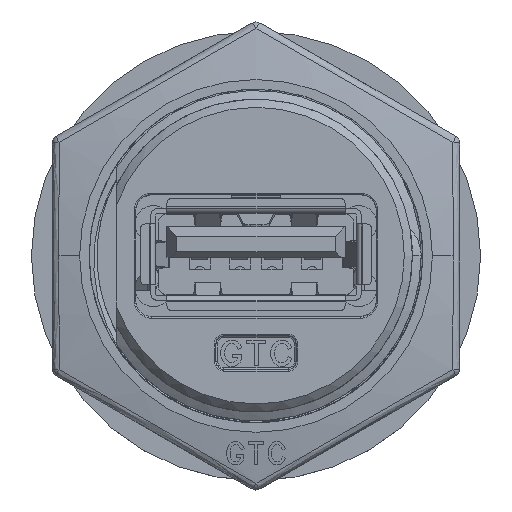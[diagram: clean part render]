
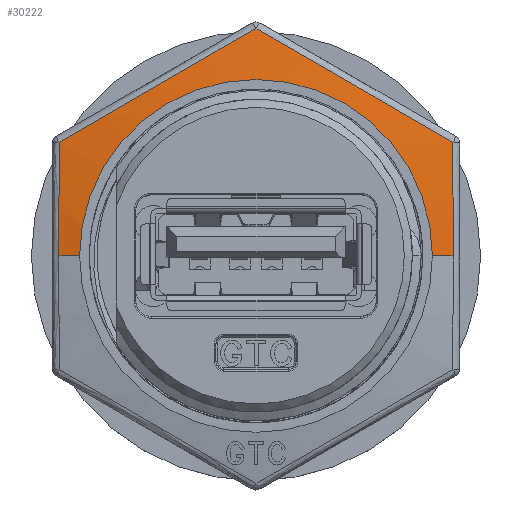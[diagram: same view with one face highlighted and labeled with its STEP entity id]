
A CAD part, top view. The second image highlights one B-rep face of the part: STEP entity #30222.
In plain terms, the highlighted conical face has half-angle 80 degrees and reference radius 11 mm.
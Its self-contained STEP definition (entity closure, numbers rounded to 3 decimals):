
#13810 = CARTESIAN_POINT ( 'NONE',  ( 12.275, 7.087, 1.44 ) ) ;
#13815 = CARTESIAN_POINT ( 'NONE',  ( -2.044, 13.001, 1.647 ) ) ;
#13817 = CARTESIAN_POINT ( 'NONE',  ( 0., 14.174, 1.44 ) ) ;
#13818 = CARTESIAN_POINT ( 'NONE',  ( 10.237, 8.271, 1.647 ) ) ;
#13819 = CARTESIAN_POINT ( 'NONE',  ( -4.092, 11.825, 1.773 ) ) ;
#13820 = CARTESIAN_POINT ( 'NONE',  ( -8.191, 9.458, 1.773 ) ) ;
#13821 = CARTESIAN_POINT ( 'NONE',  ( -10.237, 8.271, 1.647 ) ) ;
#13822 = CARTESIAN_POINT ( 'NONE',  ( -12.275, 7.087, 1.44 ) ) ;
#13825 = CARTESIAN_POINT ( 'NONE',  ( 8.195, 9.456, 1.773 ) ) ;
#13826 = CARTESIAN_POINT ( 'NONE',  ( 4.095, 11.823, 1.773 ) ) ;
#13827 = CARTESIAN_POINT ( 'NONE',  ( 2.045, 13.001, 1.647 ) ) ;
#13828 = CARTESIAN_POINT ( 'NONE',  ( 0., 14.174, 1.44 ) ) ;
#13869 = CARTESIAN_POINT ( 'NONE',  ( 12.287, 0., 1.773 ) ) ;
#13870 = CARTESIAN_POINT ( 'NONE',  ( 12.287, 2.366, 1.773 ) ) ;
#13880 = CARTESIAN_POINT ( 'NONE',  ( 12.281, 4.73, 1.647 ) ) ;
#13881 = CARTESIAN_POINT ( 'NONE',  ( 12.275, 7.087, 1.44 ) ) ;
#13962 = CARTESIAN_POINT ( 'NONE',  ( -11., 0., 2. ) ) ;
#13968 = DIRECTION ( 'NONE',  ( -0.985, 0., -0.174 ) ) ;
#13976 = CARTESIAN_POINT ( 'NONE',  ( -12.281, 4.729, 1.647 ) ) ;
#13977 = CARTESIAN_POINT ( 'NONE',  ( -12.275, 7.087, 1.44 ) ) ;
#13981 = CARTESIAN_POINT ( 'NONE',  ( -12.287, 2.368, 1.773 ) ) ;
#13982 = CARTESIAN_POINT ( 'NONE',  ( -12.287, 0., 1.773 ) ) ;
#13983 = CARTESIAN_POINT ( 'NONE',  ( 11., 0., 2. ) ) ;
#13984 = DIRECTION ( 'NONE',  ( 0.985, 0., -0.174 ) ) ;
#21635 = B_SPLINE_CURVE_WITH_KNOTS ( 'NONE', 3,
 ( #13817, #13815, #13819, #13820, #13821, #13822 ),
 .UNSPECIFIED., .F., .F.,
 ( 4, 2, 4 ),
 ( 0., 0.007, 0.014 ),
 .UNSPECIFIED. ) ;
#21642 = B_SPLINE_CURVE_WITH_KNOTS ( 'NONE', 3,
 ( #13869, #13870, #13880, #13881 ),
 .UNSPECIFIED., .F., .F.,
 ( 4, 4 ),
 ( 0.007, 0.014 ),
 .UNSPECIFIED. ) ;
#21675 = B_SPLINE_CURVE_WITH_KNOTS ( 'NONE', 3,
 ( #13977, #13976, #13981, #13982 ),
 .UNSPECIFIED., .F., .F.,
 ( 4, 4 ),
 ( 0., 0.007 ),
 .UNSPECIFIED. ) ;
#21687 = B_SPLINE_CURVE_WITH_KNOTS ( 'NONE', 3,
 ( #13810, #13818, #13825, #13826, #13827, #13828 ),
 .UNSPECIFIED., .F., .F.,
 ( 4, 2, 4 ),
 ( 0., 0.007, 0.014 ),
 .UNSPECIFIED. ) ;
#30222 = ADVANCED_FACE ( 'NONE', ( #63354 ), #63367, .T. ) ;
#31822 = VERTEX_POINT ( 'NONE', #60840 ) ;
#31841 = VERTEX_POINT ( 'NONE', #60859 ) ;
#31847 = VERTEX_POINT ( 'NONE', #60865 ) ;
#31858 = VERTEX_POINT ( 'NONE', #60876 ) ;
#31859 = VERTEX_POINT ( 'NONE', #60877 ) ;
#31865 = VERTEX_POINT ( 'NONE', #60883 ) ;
#31868 = VERTEX_POINT ( 'NONE', #60886 ) ;
#35319 = LINE ( 'NONE', #13962, #35323 ) ;
#35323 = VECTOR ( 'NONE', #13968, 1000. ) ;
#35325 = LINE ( 'NONE', #13983, #35326 ) ;
#35326 = VECTOR ( 'NONE', #13984, 1000. ) ;
#35351 = CIRCLE ( 'NONE', #67150, 11. ) ;
#40670 = ORIENTED_EDGE ( 'NONE', *, *, #72138, .T. ) ;
#40682 = ORIENTED_EDGE ( 'NONE', *, *, #72077, .T. ) ;
#40688 = ORIENTED_EDGE ( 'NONE', *, *, #72175, .T. ) ;
#40708 = ORIENTED_EDGE ( 'NONE', *, *, #72132, .F. ) ;
#40722 = ORIENTED_EDGE ( 'NONE', *, *, #72136, .T. ) ;
#40772 = ORIENTED_EDGE ( 'NONE', *, *, #72101, .T. ) ;
#40776 = ORIENTED_EDGE ( 'NONE', *, *, #72079, .T. ) ;
#47315 = EDGE_LOOP ( 'NONE', ( #40688, #40670, #40772, #40776, #40682, #40722, #40708 ) ) ;
#49150 = CARTESIAN_POINT ( 'NONE',  ( 0., 0., 2. ) ) ;
#49152 = DIRECTION ( 'NONE',  ( 0., 0., -1. ) ) ;
#49154 = DIRECTION ( 'NONE',  ( -1., 0., 0. ) ) ;
#58856 = AXIS2_PLACEMENT_3D ( 'NONE', #76856, #76855, #76848 ) ;
#60840 = CARTESIAN_POINT ( 'NONE',  ( -11., 0., 2. ) ) ;
#60859 = CARTESIAN_POINT ( 'NONE',  ( 11., 0., 2. ) ) ;
#60865 = CARTESIAN_POINT ( 'NONE',  ( 0., 14.174, 1.44 ) ) ;
#60876 = CARTESIAN_POINT ( 'NONE',  ( 12.275, 7.087, 1.44 ) ) ;
#60877 = CARTESIAN_POINT ( 'NONE',  ( -12.275, 7.087, 1.44 ) ) ;
#60883 = CARTESIAN_POINT ( 'NONE',  ( -12.287, 0., 1.773 ) ) ;
#60886 = CARTESIAN_POINT ( 'NONE',  ( 12.287, 0., 1.773 ) ) ;
#63354 = FACE_OUTER_BOUND ( 'NONE', #47315, .T. ) ;
#63367 = CONICAL_SURFACE ( 'NONE', #58856, 11., 1.396 ) ;
#67150 = AXIS2_PLACEMENT_3D ( 'NONE', #49150, #49152, #49154 ) ;
#72077 = EDGE_CURVE ( 'NONE', #31847, #31859, #21635, .T. ) ;
#72079 = EDGE_CURVE ( 'NONE', #31858, #31847, #21687, .T. ) ;
#72101 = EDGE_CURVE ( 'NONE', #31868, #31858, #21642, .T. ) ;
#72132 = EDGE_CURVE ( 'NONE', #31822, #31865, #35319, .T. ) ;
#72136 = EDGE_CURVE ( 'NONE', #31859, #31865, #21675, .T. ) ;
#72138 = EDGE_CURVE ( 'NONE', #31841, #31868, #35325, .T. ) ;
#72175 = EDGE_CURVE ( 'NONE', #31822, #31841, #35351, .T. ) ;
#76848 = DIRECTION ( 'NONE',  ( -1., 0., 0. ) ) ;
#76855 = DIRECTION ( 'NONE',  ( 0., 0., -1. ) ) ;
#76856 = CARTESIAN_POINT ( 'NONE',  ( 0., 0., 2. ) ) ;
